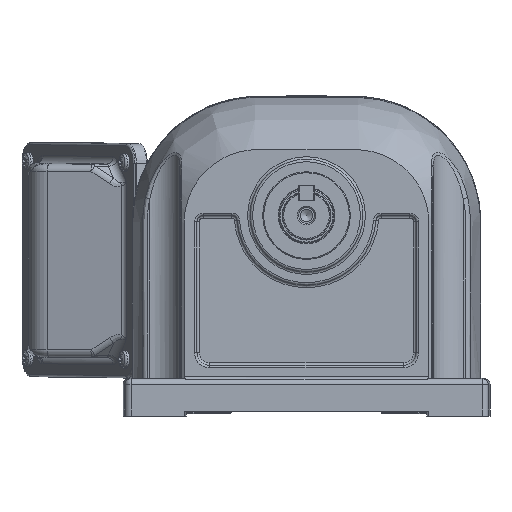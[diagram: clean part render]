
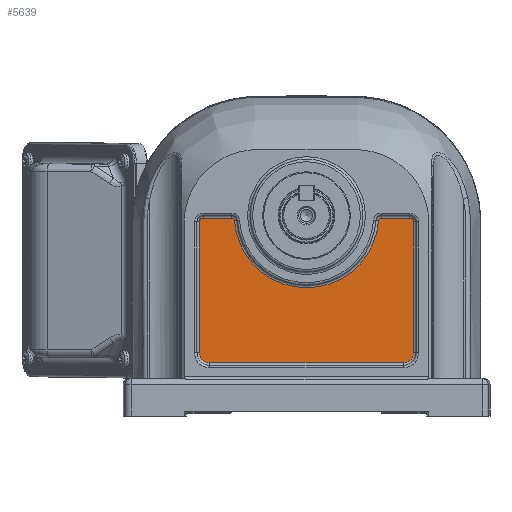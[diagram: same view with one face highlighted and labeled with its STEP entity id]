
A CAD part, front view. The second image highlights one B-rep face of the part: STEP entity #5639.
In plain terms, the highlighted planar face has unit normal (0, -1, 0).
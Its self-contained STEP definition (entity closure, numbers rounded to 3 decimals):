
#5639 = ADVANCED_FACE( '', ( #12074 ), #12075, .F. );
#12074 = FACE_OUTER_BOUND( '', #41759, .T. );
#12075 = PLANE( '', #41760 );
#41759 = EDGE_LOOP( '', ( #64443, #64444, #64445, #64446, #64447, #64448, #64449, #64450, #64451, #64452, #64453, #64454 ) );
#41760 = AXIS2_PLACEMENT_3D( '', #64455, #64456, #64457 );
#64443 = ORIENTED_EDGE( '', *, *, #73906, .T. );
#64444 = ORIENTED_EDGE( '', *, *, #69765, .T. );
#64445 = ORIENTED_EDGE( '', *, *, #71919, .T. );
#64446 = ORIENTED_EDGE( '', *, *, #73614, .T. );
#64447 = ORIENTED_EDGE( '', *, *, #76235, .T. );
#64448 = ORIENTED_EDGE( '', *, *, #73153, .T. );
#64449 = ORIENTED_EDGE( '', *, *, #71453, .T. );
#64450 = ORIENTED_EDGE( '', *, *, #69834, .T. );
#64451 = ORIENTED_EDGE( '', *, *, #76236, .T. );
#64452 = ORIENTED_EDGE( '', *, *, #76237, .T. );
#64453 = ORIENTED_EDGE( '', *, *, #76093, .T. );
#64454 = ORIENTED_EDGE( '', *, *, #74774, .T. );
#64455 = CARTESIAN_POINT( '', ( 29.733, 2., -2. ) );
#64456 = DIRECTION( '', ( 0., 1., 0. ) );
#64457 = DIRECTION( '', ( 0., 0., 1. ) );
#69765 = EDGE_CURVE( '', #77832, #77830, #77833, .F. );
#69834 = EDGE_CURVE( '', #77956, #77953, #77957, .T. );
#71453 = EDGE_CURVE( '', #80736, #77956, #80737, .F. );
#71919 = EDGE_CURVE( '', #77830, #81489, #81491, .F. );
#73153 = EDGE_CURVE( '', #83378, #80736, #83379, .F. );
#73614 = EDGE_CURVE( '', #81489, #84053, #84055, .F. );
#73906 = EDGE_CURVE( '', #84467, #77832, #84470, .F. );
#74774 = EDGE_CURVE( '', #85656, #84467, #85658, .F. );
#76093 = EDGE_CURVE( '', #87308, #85656, #87310, .F. );
#76235 = EDGE_CURVE( '', #84053, #83378, #87471, .F. );
#76236 = EDGE_CURVE( '', #77953, #87472, #87473, .F. );
#76237 = EDGE_CURVE( '', #87472, #87308, #87474, .F. );
#77830 = VERTEX_POINT( '', #90281 );
#77832 = VERTEX_POINT( '', #90283 );
#77833 = LINE( '', #90284, #90285 );
#77953 = VERTEX_POINT( '', #90619 );
#77956 = VERTEX_POINT( '', #90622 );
#77957 = CIRCLE( '', #90623, 28.8 );
#80736 = VERTEX_POINT( '', #98216 );
#80737 = CIRCLE( '', #98217, 1. );
#81489 = VERTEX_POINT( '', #100619 );
#81491 = CIRCLE( '', #100621, 4. );
#83378 = VERTEX_POINT( '', #106172 );
#83379 = LINE( '', #106173, #106174 );
#84053 = VERTEX_POINT( '', #107948 );
#84055 = LINE( '', #107950, #107951 );
#84467 = VERTEX_POINT( '', #108782 );
#84470 = CIRCLE( '', #108785, 4. );
#85656 = VERTEX_POINT( '', #112558 );
#85658 = LINE( '', #112560, #112561 );
#87308 = VERTEX_POINT( '', #118706 );
#87310 = CIRCLE( '', #118708, 1.5 );
#87471 = CIRCLE( '', #119155, 1.5 );
#87472 = VERTEX_POINT( '', #119156 );
#87473 = CIRCLE( '', #119157, 1. );
#87474 = LINE( '', #119158, #119159 );
#90281 = CARTESIAN_POINT( '', ( 38.7, 2., -58.7 ) );
#90283 = CARTESIAN_POINT( '', ( -38.7, 2., -58.7 ) );
#90284 = CARTESIAN_POINT( '', ( 29.733, 2., -58.7 ) );
#90285 = VECTOR( '', #121649, 1000. );
#90619 = CARTESIAN_POINT( '', ( -28.735, 2., -1.933 ) );
#90622 = CARTESIAN_POINT( '', ( 28.735, 2., -1.933 ) );
#90623 = AXIS2_PLACEMENT_3D( '', #121737, #121738, #121739 );
#98216 = CARTESIAN_POINT( '', ( 29.733, 2., -1. ) );
#98217 = AXIS2_PLACEMENT_3D( '', #124166, #124167, #124168 );
#100619 = CARTESIAN_POINT( '', ( 42.7, 2., -54.7 ) );
#100621 = AXIS2_PLACEMENT_3D( '', #124788, #124789, #124790 );
#106172 = CARTESIAN_POINT( '', ( 41.2, 2., -1. ) );
#106173 = CARTESIAN_POINT( '', ( 29.733, 2., -1. ) );
#106174 = VECTOR( '', #126426, 1000. );
#107948 = CARTESIAN_POINT( '', ( 42.7, 2., -2.5 ) );
#107950 = CARTESIAN_POINT( '', ( 42.7, 2., -2. ) );
#107951 = VECTOR( '', #127005, 1000. );
#108782 = CARTESIAN_POINT( '', ( -42.7, 2., -54.7 ) );
#108785 = AXIS2_PLACEMENT_3D( '', #127479, #127480, #127481 );
#112558 = CARTESIAN_POINT( '', ( -42.7, 2., -2.5 ) );
#112560 = CARTESIAN_POINT( '', ( -42.7, 2., -2. ) );
#112561 = VECTOR( '', #128559, 1000. );
#118706 = CARTESIAN_POINT( '', ( -41.2, 2., -1. ) );
#118708 = AXIS2_PLACEMENT_3D( '', #130091, #130092, #130093 );
#119155 = AXIS2_PLACEMENT_3D( '', #130223, #130224, #130225 );
#119156 = CARTESIAN_POINT( '', ( -29.733, 2., -1. ) );
#119157 = AXIS2_PLACEMENT_3D( '', #130226, #130227, #130228 );
#119158 = CARTESIAN_POINT( '', ( 29.733, 2., -1. ) );
#119159 = VECTOR( '', #130229, 1000. );
#121649 = DIRECTION( '', ( -1., 0., 0. ) );
#121737 = CARTESIAN_POINT( '', ( 0., 2., 0. ) );
#121738 = DIRECTION( '', ( 0., 1., 0. ) );
#121739 = DIRECTION( '', ( 0., 0., 1. ) );
#124166 = CARTESIAN_POINT( '', ( 29.733, 2., -2. ) );
#124167 = DIRECTION( '', ( 0., 1., 0. ) );
#124168 = DIRECTION( '', ( 0., 0., 1. ) );
#124788 = CARTESIAN_POINT( '', ( 38.7, 2., -54.7 ) );
#124789 = DIRECTION( '', ( 0., 1., 0. ) );
#124790 = DIRECTION( '', ( 0., 0., 1. ) );
#126426 = DIRECTION( '', ( 1., 0., 0. ) );
#127005 = DIRECTION( '', ( 0., 0., -1. ) );
#127479 = CARTESIAN_POINT( '', ( -38.7, 2., -54.7 ) );
#127480 = DIRECTION( '', ( 0., 1., 0. ) );
#127481 = DIRECTION( '', ( 0., 0., 1. ) );
#128559 = DIRECTION( '', ( 0., 0., 1. ) );
#130091 = CARTESIAN_POINT( '', ( -41.2, 2., -2.5 ) );
#130092 = DIRECTION( '', ( 0., 1., 0. ) );
#130093 = DIRECTION( '', ( 0., 0., 1. ) );
#130223 = CARTESIAN_POINT( '', ( 41.2, 2., -2.5 ) );
#130224 = DIRECTION( '', ( 0., 1., 0. ) );
#130225 = DIRECTION( '', ( 0., 0., 1. ) );
#130226 = CARTESIAN_POINT( '', ( -29.733, 2., -2. ) );
#130227 = DIRECTION( '', ( 0., 1., 0. ) );
#130228 = DIRECTION( '', ( 0., 0., 1. ) );
#130229 = DIRECTION( '', ( 1., 0., 0. ) );
